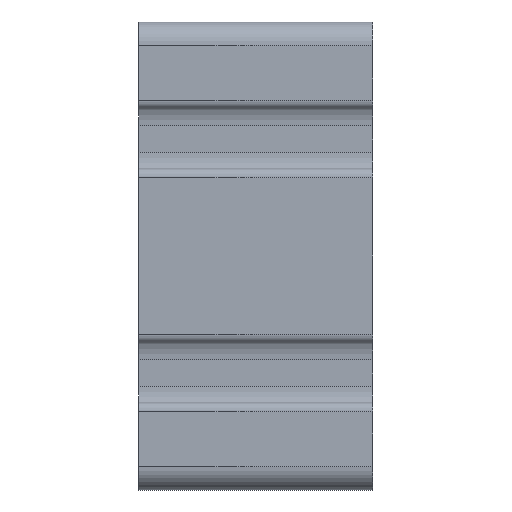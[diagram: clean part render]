
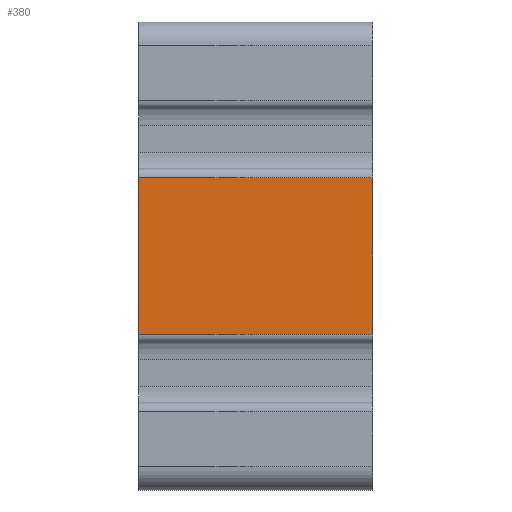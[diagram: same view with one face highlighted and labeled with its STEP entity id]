
A CAD part, left-side view. The second image highlights one B-rep face of the part: STEP entity #380.
In plain terms, the highlighted planar face has unit normal (-1, 0, 0).
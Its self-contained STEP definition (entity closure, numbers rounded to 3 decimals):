
#380=ADVANCED_FACE('',(#852),#853,.T.);
#852=FACE_OUTER_BOUND('',#1417,.T.);
#853=PLANE('',#1418);
#1417=EDGE_LOOP('',(#2509,#2510,#2511,#2512));
#1418=AXIS2_PLACEMENT_3D('',#2513,#2514,#2515);
#2509=ORIENTED_EDGE('',*,*,#3728,.T.);
#2510=ORIENTED_EDGE('',*,*,#3882,.F.);
#2511=ORIENTED_EDGE('',*,*,#3910,.T.);
#2512=ORIENTED_EDGE('',*,*,#3933,.T.);
#2513=CARTESIAN_POINT('',(-20.0,10.0,0.0));
#2514=DIRECTION('',(-1.0,0.0,0.0));
#2515=DIRECTION('',(0.0,0.0,-1.0));
#3728=EDGE_CURVE('',#4539,#4541,#4543,.T.);
#3882=EDGE_CURVE('',#4831,#4541,#4833,.T.);
#3910=EDGE_CURVE('',#4831,#4869,#4872,.T.);
#3933=EDGE_CURVE('',#4869,#4539,#4901,.T.);
#4539=VERTEX_POINT('',#5709);
#4541=VERTEX_POINT('',#5711);
#4543=LINE('',#5713,#5714);
#4831=VERTEX_POINT('',#6078);
#4833=LINE('',#6080,#6081);
#4869=VERTEX_POINT('',#6130);
#4872=LINE('',#6133,#6134);
#4901=LINE('',#6174,#6175);
#5709=CARTESIAN_POINT('',(-20.,-10.0,6.7));
#5711=CARTESIAN_POINT('',(-20.,10.0,6.7));
#5713=CARTESIAN_POINT('',(-20.0,0.0,6.7));
#5714=VECTOR('',#6990,1.0);
#6078=CARTESIAN_POINT('',(-20.0,10.0,-6.7));
#6080=CARTESIAN_POINT('',(-20.0,10.0,-18.0));
#6081=VECTOR('',#7271,1.0);
#6130=CARTESIAN_POINT('',(-20.0,-10.0,-6.7));
#6133=CARTESIAN_POINT('',(-20.0,10.0,-6.7));
#6134=VECTOR('',#7300,1.0);
#6174=CARTESIAN_POINT('',(-20.0,-10.0,-18.0));
#6175=VECTOR('',#7321,1.0);
#6990=DIRECTION('',(-0.0,1.0,0.0));
#7271=DIRECTION('',(0.0,0.0,1.0));
#7300=DIRECTION('',(0.0,-1.0,0.0));
#7321=DIRECTION('',(0.0,0.0,1.0));
